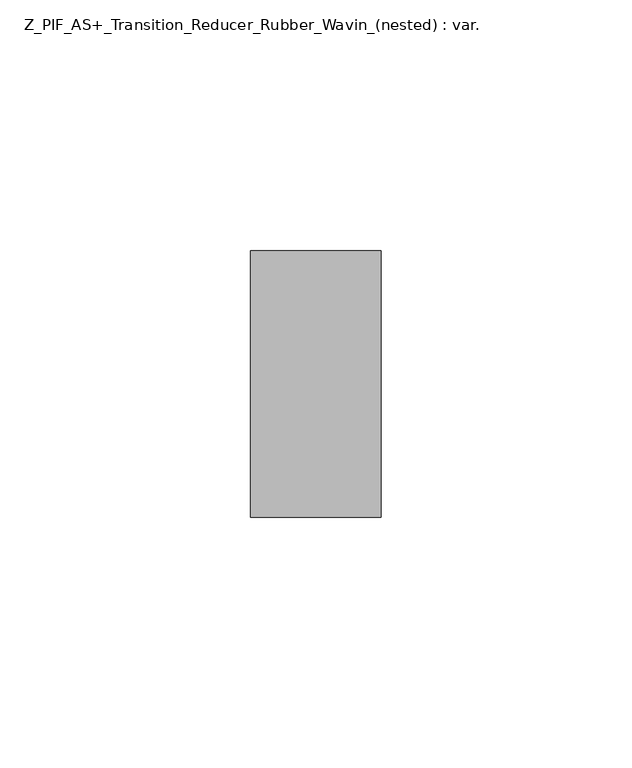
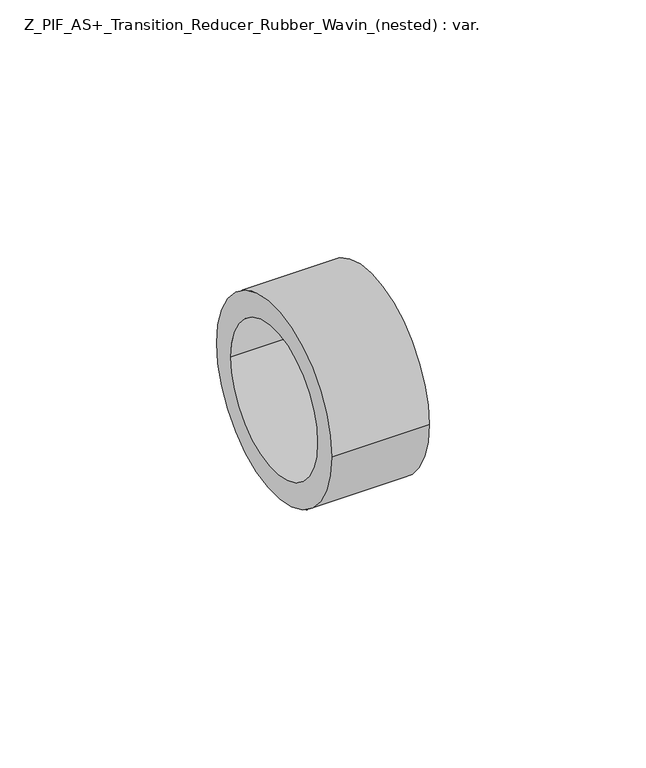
"""IFC4 building model written with IfcOpenShell, lengths in millimetres: pipe fitting geometry, Z_PIF_AS+_Transition_Reducer_Rubber_Wavin_(nested) : var.."""

from ifc_helpers import new_model, si_unit, point, frame, origin, origin_2d, place, context, project, spatial, circle_curve, trimmed, segment, composite_curve, outline, extrude, source, transform, mapped, element, save


def z_pif_as_transition_reducer_rubber_wavin_nested_var_89c88401(model_context):
    return source(origin(), model_context, "Body", "SweptSolid", [
        extrude(outline(composite_curve([segment(trimmed(circle_curve(origin_2d(), 26.5), [point((-26.5, 0.0))], [point((26.5, 0.0))], False, "CARTESIAN"), True, "CONTINUOUS"), segment(trimmed(circle_curve(origin_2d(), 26.5), [point((26.5, 0.0))], [point((-26.5, 0.0))], False, "CARTESIAN"), True, "CONTINUOUS")], self_intersect=False), holes=[composite_curve([segment(trimmed(circle_curve(origin_2d(), 20.0), [point((-20.0, 0.0))], [point((20.0, 0.0))], True, "CARTESIAN"), True, "CONTINUOUS"), segment(trimmed(circle_curve(origin_2d(), 20.0), [point((20.0, 0.0))], [point((-20.0, 0.0))], True, "CARTESIAN"), True, "CONTINUOUS")], self_intersect=False)]), frame((0.0, 0.0, 0.0), z_axis=(1.0, 0.0, 0.0), x_axis=(0.0, 1.0, 0.0)), (0.0, 0.0, 1.0), 26.0),
    ])


if __name__ == "__main__":
    model = new_model("IFC4")
    model_context = context("Model", 3, world=origin())
    ifc_project = project(units=[si_unit("LENGTHUNIT", "METRE", prefix="MILLI")], contexts=[model_context])
    site = spatial("IfcSite", under=ifc_project)
    building = spatial("IfcBuilding", under=site)
    placement = place(None, origin())
    z_pif_as_transition_reducer_rubber_wavin_nested_var_shape = z_pif_as_transition_reducer_rubber_wavin_nested_var_89c88401(model_context)
    element("IfcPipeFitting", 1, ObjectType="Z_PIF_AS+_Transition_Reducer_Rubber_Wavin_(nested) : var.", at=placement, inside=building, context=model_context, shape_type="MappedRepresentation", body=[
        mapped(z_pif_as_transition_reducer_rubber_wavin_nested_var_shape, transform((0.0, 0.0, 0.0), x_axis=(1.0, 0.0, 0.0), y_axis=(0.0, 1.0, 0.0), z_axis=(0.0, 0.0, 1.0))),
    ])
    save(model, "model.ifc")
